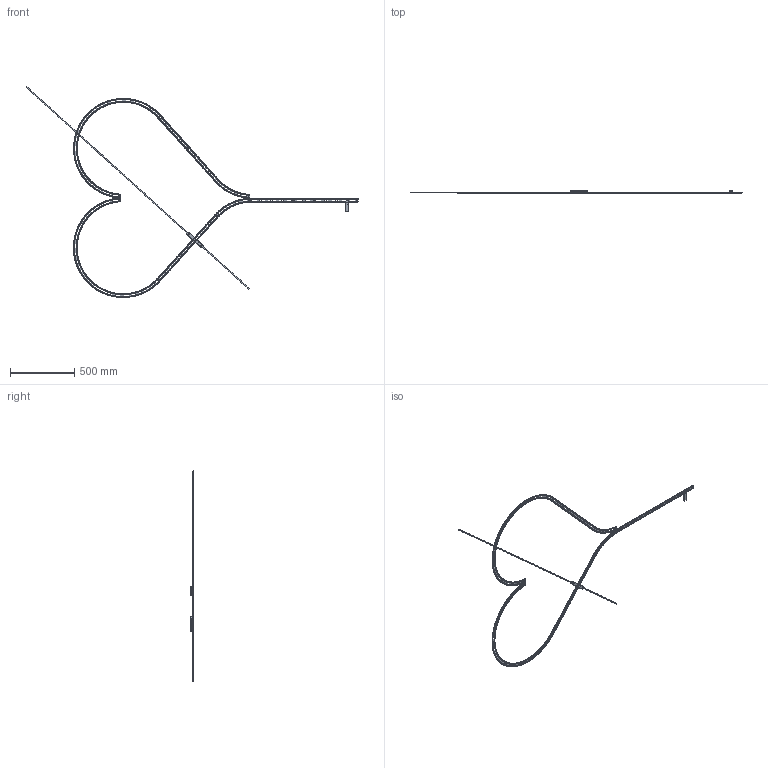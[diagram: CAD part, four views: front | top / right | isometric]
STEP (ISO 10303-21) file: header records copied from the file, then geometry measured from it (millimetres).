
FILE_DESCRIPTION(/* description */ (''),/* implementation_level */ '2;1');
FILE_NAME(/* name */ 'X:\PUBBLICA\X ALBERTO ZANARDI\FILE 3D X SITO\EU\RAIL\1981 - RAIL.stp',/* time_stamp */ '2020-02-26T14:23:12+01:00',/* author */ ('AC'),/* organization */ (''),/* preprocessor_version */ 'ST-DEVELOPER v18',/* originating_system */ 'Autodesk Inventor 2020',/* authorisation */ '');
FILE_SCHEMA (('AUTOMOTIVE_DESIGN { 1 0 10303 214 3 1 1 }'));
Products named in the file (1): Parte13
Bounding box: 2580.52 x 17.5 x 1639.54 mm (x, y, z)
Volume: 220779.4 mm3; surface area: 462140.8 mm2
Topology: 160 solids, 160 shells, 13980 faces, 39342 edges, 26204 vertices
Faces by surface type: plane 12054, cylinder 1782, torus 96, cone 48
Full cylindrical faces by diameter (mm): 5 x4
Entity records: 451162 total; most frequent: CARTESIAN_POINT 79527, ORIENTED_EDGE 78684, DIRECTION 71108, EDGE_CURVE 39342, LINE 35538, VECTOR 35538, VERTEX_POINT 26204, AXIS2_PLACEMENT_3D 17785
